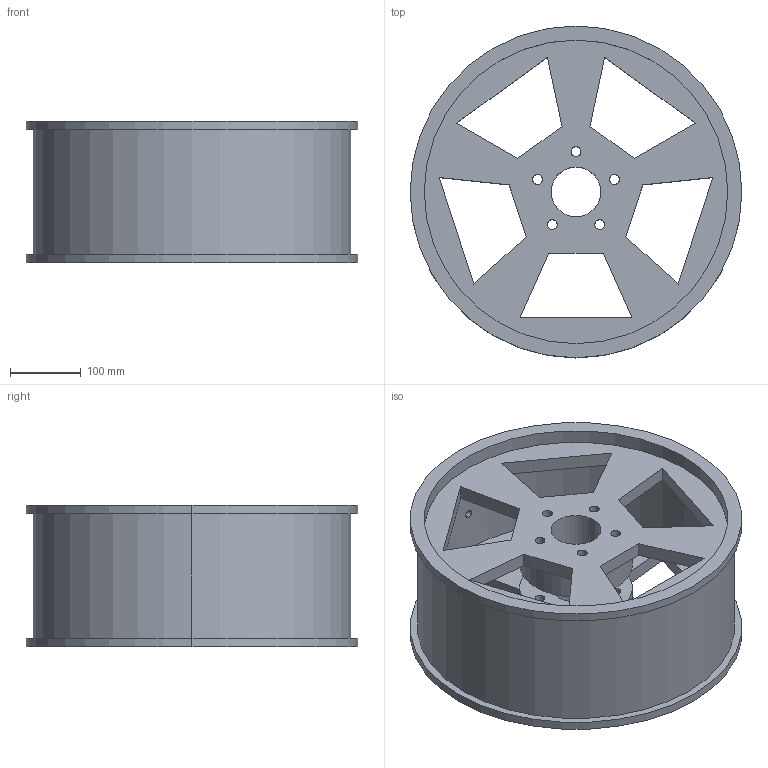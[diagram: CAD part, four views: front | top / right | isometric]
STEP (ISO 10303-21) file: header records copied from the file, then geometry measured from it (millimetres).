
FILE_DESCRIPTION (( 'STEP AP203' ), '1' );
FILE_NAME ('car_wheel_v3.STEP', '2026-10-25T01:38:08', ( '' ), ( '' ), 'SwSTEP 2.0', 'SolidWorks 2023', '' );
FILE_SCHEMA (( 'CONFIG_CONTROL_DESIGN' ));
Length unit declared in the file: millimetre
Products named in the file (1): car_wheel_v3
Bounding box: 470 x 470 x 200 mm (x, y, z)
Volume: 7811815.6 mm3; surface area: 1113034.1 mm2
Topology: 1 solids, 1 shells, 92 faces, 246 edges, 164 vertices
Faces by surface type: plane 50, cylinder 42
Entity records: 3211 total; most frequent: CARTESIAN_POINT 667, DIRECTION 508, ORIENTED_EDGE 492, EDGE_CURVE 246, AXIS2_PLACEMENT_3D 173, VERTEX_POINT 164, VECTOR 162, LINE 162
